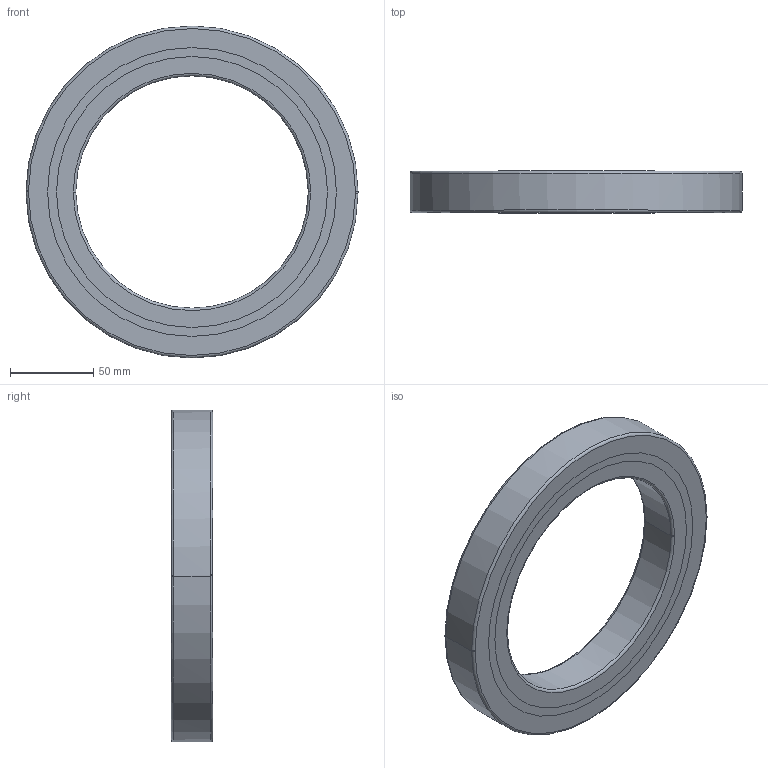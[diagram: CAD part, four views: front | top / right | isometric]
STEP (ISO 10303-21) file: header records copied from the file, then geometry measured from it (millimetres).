
FILE_DESCRIPTION(('no description'),'unknown implementation level');
FILE_NAME('CRBC14025_6.stp',' ',('HIWIN GmbH'),('CADClick - KiM GmbH - www.kimweb.de'),'unknown preprocess','ACIS','unknown authorization');
FILE_SCHEMA(('automotive_design'));
Length unit declared in the file: millimetre
Products named in the file (4): CRBC14025_1; CRBC14025_2; CRBC14025_3; CRBC14025
Bounding box: 200 x 25 x 200 mm (x, y, z)
Volume: 339456.7 mm3; surface area: 93813.9 mm2
Topology: 4 solids, 4 shells, 40 faces, 88 edges, 56 vertices
Faces by surface type: cylinder 16, torus 16, plane 8
Entity records: 2289 total; most frequent: DIRECTION 248, STYLED_ITEM 188, PRESENTATION_STYLE_ASSIGNMENT 188, CARTESIAN_POINT 188, COLOUR_RGB 188, ORIENTED_EDGE 176, AXIS2_PLACEMENT_3D 116, EDGE_CURVE 88
